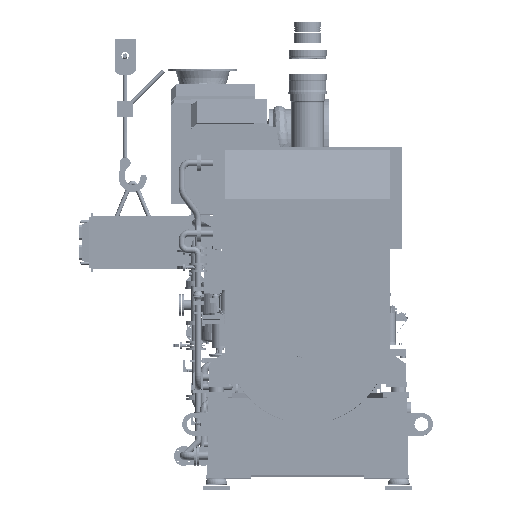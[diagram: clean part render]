
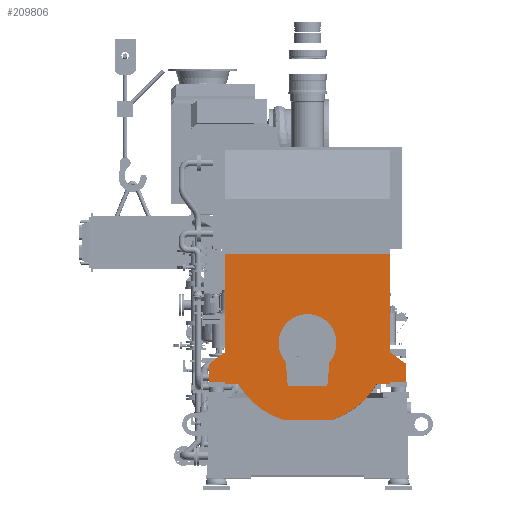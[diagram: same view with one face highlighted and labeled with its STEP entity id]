
A CAD part, top view. The second image highlights one B-rep face of the part: STEP entity #209806.
In plain terms, the highlighted planar face has unit normal (0, 0, 1).
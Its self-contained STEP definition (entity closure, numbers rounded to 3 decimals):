
#207286=DIRECTION('',(0.,-1.,0.));
#207287=VECTOR('',#207286,920.745);
#207288=CARTESIAN_POINT('',(-771.,834.,3440.));
#207289=LINE('',#207288,#207287);
#207306=DIRECTION('',(0.,-1.,0.));
#207307=VECTOR('',#207306,15.);
#207308=CARTESIAN_POINT('',(-771.,-365.,3440.));
#207309=LINE('',#207308,#207307);
#207386=DIRECTION('',(-0.809,0.588,0.));
#207387=VECTOR('',#207386,184.174);
#207388=CARTESIAN_POINT('',(920.,-195.,3440.));
#207389=LINE('',#207388,#207387);
#207390=DIRECTION('',(0.,1.,0.));
#207391=VECTOR('',#207390,170.);
#207392=CARTESIAN_POINT('',(920.,-365.,3440.));
#207393=LINE('',#207392,#207391);
#207394=DIRECTION('',(-1.,0.,0.));
#207395=VECTOR('',#207394,149.);
#207396=CARTESIAN_POINT('',(920.,-365.,3440.));
#207397=LINE('',#207396,#207395);
#207398=CARTESIAN_POINT('',(0.,0.,3440.));
#207399=DIRECTION('',(0.,0.,-1.));
#207400=DIRECTION('',(0.862,-0.507,0.));
#207401=AXIS2_PLACEMENT_3D('',#207398,#207399,#207400);
#207403=DIRECTION('',(-1.,0.,0.));
#207404=VECTOR('',#207403,452.88);
#207405=CARTESIAN_POINT('',(226.44,-715.,3440.));
#207406=LINE('',#207405,#207404);
#207407=CARTESIAN_POINT('',(0.,0.,3440.));
#207408=DIRECTION('',(0.,0.,-1.));
#207409=DIRECTION('',(-0.302,-0.953,0.));
#207410=AXIS2_PLACEMENT_3D('',#207407,#207408,#207409);
#207412=DIRECTION('',(-1.,0.,0.));
#207413=VECTOR('',#207412,149.);
#207414=CARTESIAN_POINT('',(-771.,-365.,3440.));
#207415=LINE('',#207414,#207413);
#207416=DIRECTION('',(0.,1.,0.));
#207417=VECTOR('',#207416,170.);
#207418=CARTESIAN_POINT('',(-920.,-365.,3440.));
#207419=LINE('',#207418,#207417);
#207420=DIRECTION('',(0.809,0.588,0.));
#207421=VECTOR('',#207420,184.174);
#207422=CARTESIAN_POINT('',(-920.,-195.,3440.));
#207423=LINE('',#207422,#207421);
#207424=DIRECTION('',(1.,0.,0.));
#207425=VECTOR('',#207424,1542.);
#207426=CARTESIAN_POINT('',(-771.,834.,3440.));
#207427=LINE('',#207426,#207425);
#207428=DIRECTION('',(0.088,-0.996,0.));
#207429=VECTOR('',#207428,224.198);
#207430=CARTESIAN_POINT('',(-204.176,-176.669,3440.));
#207431=LINE('',#207430,#207429);
#207432=DIRECTION('',(1.,0.,0.));
#207433=VECTOR('',#207432,368.941);
#207434=CARTESIAN_POINT('',(-184.471,-400.,3440.));
#207435=LINE('',#207434,#207433);
#207436=DIRECTION('',(0.088,0.996,0.));
#207437=VECTOR('',#207436,224.198);
#207438=CARTESIAN_POINT('',(184.471,-400.,3440.));
#207439=LINE('',#207438,#207437);
#207440=CARTESIAN_POINT('',(0.,0.,3440.));
#207441=DIRECTION('',(0.,0.,1.));
#207442=DIRECTION('',(0.756,-0.654,0.));
#207443=AXIS2_PLACEMENT_3D('',#207440,#207441,#207442);
#207457=DIRECTION('',(0.,-1.,0.));
#207458=VECTOR('',#207457,920.745);
#207459=CARTESIAN_POINT('',(771.,834.,3440.));
#207460=LINE('',#207459,#207458);
#207573=DIRECTION('',(0.,-1.,0.));
#207574=VECTOR('',#207573,15.);
#207575=CARTESIAN_POINT('',(771.,-365.,3440.));
#207576=LINE('',#207575,#207574);
#207693=DIRECTION('',(1.,0.,0.));
#207694=VECTOR('',#207693,124.393);
#207695=CARTESIAN_POINT('',(-771.,-380.,3440.));
#207696=LINE('',#207695,#207694);
#207733=DIRECTION('',(1.,0.,0.));
#207734=VECTOR('',#207733,124.393);
#207735=CARTESIAN_POINT('',(646.607,-380.,3440.));
#207736=LINE('',#207735,#207734);
#209014=CARTESIAN_POINT('',(-771.,834.,3440.));
#209015=VERTEX_POINT('',#209014);
#209030=CARTESIAN_POINT('',(771.,834.,3440.));
#209031=VERTEX_POINT('',#209030);
#209060=CARTESIAN_POINT('',(226.44,-715.,3440.));
#209061=CARTESIAN_POINT('',(-226.44,-715.,3440.));
#209062=VERTEX_POINT('',#209060);
#209063=VERTEX_POINT('',#209061);
#209064=CARTESIAN_POINT('',(646.607,-380.,3440.));
#209066=VERTEX_POINT('',#209064);
#209068=CARTESIAN_POINT('',(-646.607,-380.,3440.));
#209070=VERTEX_POINT('',#209068);
#209072=CARTESIAN_POINT('',(-771.,-380.,3440.));
#209073=VERTEX_POINT('',#209072);
#209074=CARTESIAN_POINT('',(771.,-380.,3440.));
#209075=VERTEX_POINT('',#209074);
#209208=CARTESIAN_POINT('',(-920.,-365.,3440.));
#209209=CARTESIAN_POINT('',(-920.,-195.,3440.));
#209210=VERTEX_POINT('',#209208);
#209211=VERTEX_POINT('',#209209);
#209214=CARTESIAN_POINT('',(-771.,-86.745,3440.));
#209216=VERTEX_POINT('',#209214);
#209218=CARTESIAN_POINT('',(-771.,-365.,3440.));
#209219=VERTEX_POINT('',#209218);
#209244=CARTESIAN_POINT('',(920.,-365.,3440.));
#209245=CARTESIAN_POINT('',(920.,-195.,3440.));
#209246=VERTEX_POINT('',#209244);
#209247=VERTEX_POINT('',#209245);
#209252=CARTESIAN_POINT('',(771.,-365.,3440.));
#209253=VERTEX_POINT('',#209252);
#209254=CARTESIAN_POINT('',(771.,-86.745,3440.));
#209255=VERTEX_POINT('',#209254);
#209408=CARTESIAN_POINT('',(-204.176,-176.669,3440.));
#209409=CARTESIAN_POINT('',(-184.471,-400.,3440.));
#209410=VERTEX_POINT('',#209408);
#209411=VERTEX_POINT('',#209409);
#209412=CARTESIAN_POINT('',(184.471,-400.,3440.));
#209413=VERTEX_POINT('',#209412);
#209414=CARTESIAN_POINT('',(204.176,-176.669,3440.));
#209415=VERTEX_POINT('',#209414);
#209760=CARTESIAN_POINT('',(-771.,834.,3440.));
#209761=DIRECTION('',(0.,0.,1.));
#209762=DIRECTION('',(0.,-1.,0.));
#209763=AXIS2_PLACEMENT_3D('',#209760,#209761,#209762);
#209764=PLANE('',#209763);
#209766=ORIENTED_EDGE('',*,*,#209765,.T.);
#209768=ORIENTED_EDGE('',*,*,#209767,.F.);
#209770=ORIENTED_EDGE('',*,*,#209769,.F.);
#209772=ORIENTED_EDGE('',*,*,#209771,.T.);
#209774=ORIENTED_EDGE('',*,*,#209773,.T.);
#209776=ORIENTED_EDGE('',*,*,#209775,.F.);
#209778=ORIENTED_EDGE('',*,*,#209777,.T.);
#209780=ORIENTED_EDGE('',*,*,#209779,.T.);
#209782=ORIENTED_EDGE('',*,*,#209781,.T.);
#209784=ORIENTED_EDGE('',*,*,#209783,.F.);
#209785=ORIENTED_EDGE('',*,*,#209663,.F.);
#209787=ORIENTED_EDGE('',*,*,#209786,.T.);
#209789=ORIENTED_EDGE('',*,*,#209788,.T.);
#209790=ORIENTED_EDGE('',*,*,#209752,.T.);
#209791=ORIENTED_EDGE('',*,*,#209635,.F.);
#209793=ORIENTED_EDGE('',*,*,#209792,.T.);
#209794=EDGE_LOOP('',(#209766,#209768,#209770,#209772,#209774,#209776,#209778,
#209780,#209782,#209784,#209785,#209787,#209789,#209790,#209791,#209793));
#209795=FACE_OUTER_BOUND('',#209794,.F.);
#209797=ORIENTED_EDGE('',*,*,#209796,.T.);
#209799=ORIENTED_EDGE('',*,*,#209798,.T.);
#209801=ORIENTED_EDGE('',*,*,#209800,.T.);
#209803=ORIENTED_EDGE('',*,*,#209802,.T.);
#209804=EDGE_LOOP('',(#209797,#209799,#209801,#209803));
#209805=FACE_BOUND('',#209804,.F.);
#209806=ADVANCED_FACE('',(#209795,#209805),#209764,.T.);
#207402=CIRCLE('',#207401,750.);
#207411=CIRCLE('',#207410,750.);
#207444=CIRCLE('',#207443,270.);
#209635=EDGE_CURVE('',#209015,#209216,#207289,.T.);
#209663=EDGE_CURVE('',#209219,#209073,#207309,.T.);
#209752=EDGE_CURVE('',#209211,#209216,#207423,.T.);
#209765=EDGE_CURVE('',#209031,#209255,#207460,.T.);
#209767=EDGE_CURVE('',#209247,#209255,#207389,.T.);
#209769=EDGE_CURVE('',#209246,#209247,#207393,.T.);
#209771=EDGE_CURVE('',#209246,#209253,#207397,.T.);
#209773=EDGE_CURVE('',#209253,#209075,#207576,.T.);
#209775=EDGE_CURVE('',#209066,#209075,#207736,.T.);
#209777=EDGE_CURVE('',#209066,#209062,#207402,.T.);
#209779=EDGE_CURVE('',#209062,#209063,#207406,.T.);
#209781=EDGE_CURVE('',#209063,#209070,#207411,.T.);
#209783=EDGE_CURVE('',#209073,#209070,#207696,.T.);
#209786=EDGE_CURVE('',#209219,#209210,#207415,.T.);
#209788=EDGE_CURVE('',#209210,#209211,#207419,.T.);
#209792=EDGE_CURVE('',#209015,#209031,#207427,.T.);
#209796=EDGE_CURVE('',#209410,#209411,#207431,.T.);
#209798=EDGE_CURVE('',#209411,#209413,#207435,.T.);
#209800=EDGE_CURVE('',#209413,#209415,#207439,.T.);
#209802=EDGE_CURVE('',#209415,#209410,#207444,.T.);
